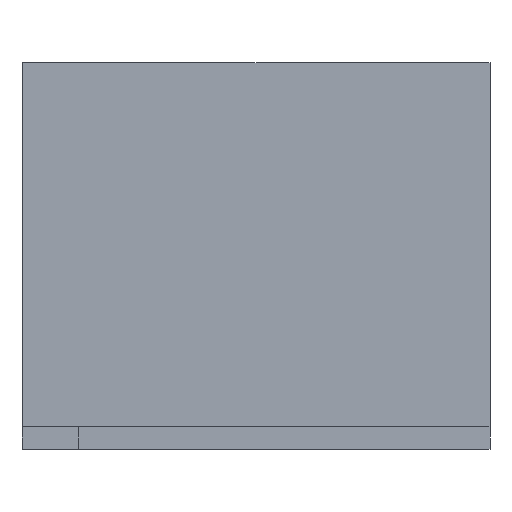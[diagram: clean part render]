
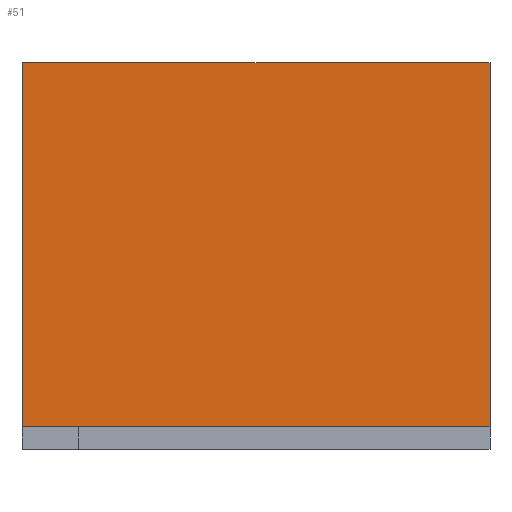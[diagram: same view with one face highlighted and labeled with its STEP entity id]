
A CAD part, front view. The second image highlights one B-rep face of the part: STEP entity #51.
In plain terms, the highlighted planar face has unit normal (0, -1, 0).
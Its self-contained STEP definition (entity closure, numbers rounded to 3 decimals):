
#51 = ADVANCED_FACE('',(#52),#94,.F.);
#52 = FACE_BOUND('',#53,.F.);
#53 = EDGE_LOOP('',(#54,#64,#72,#80,#88));
#54 = ORIENTED_EDGE('',*,*,#55,.T.);
#55 = EDGE_CURVE('',#56,#58,#60,.T.);
#56 = VERTEX_POINT('',#57);
#57 = CARTESIAN_POINT('',(0.,0.,0.));
#58 = VERTEX_POINT('',#59);
#59 = CARTESIAN_POINT('',(0.,0.,21.));
#60 = LINE('',#61,#62);
#61 = CARTESIAN_POINT('',(0.,0.,0.));
#62 = VECTOR('',#63,1.);
#63 = DIRECTION('',(0.,0.,1.));
#64 = ORIENTED_EDGE('',*,*,#65,.T.);
#65 = EDGE_CURVE('',#58,#66,#68,.T.);
#66 = VERTEX_POINT('',#67);
#67 = CARTESIAN_POINT('',(27.,0.,21.));
#68 = LINE('',#69,#70);
#69 = CARTESIAN_POINT('',(0.,0.,21.));
#70 = VECTOR('',#71,1.);
#71 = DIRECTION('',(1.,0.,0.));
#72 = ORIENTED_EDGE('',*,*,#73,.F.);
#73 = EDGE_CURVE('',#74,#66,#76,.T.);
#74 = VERTEX_POINT('',#75);
#75 = CARTESIAN_POINT('',(27.,0.,0.));
#76 = LINE('',#77,#78);
#77 = CARTESIAN_POINT('',(27.,0.,0.));
#78 = VECTOR('',#79,1.);
#79 = DIRECTION('',(0.,0.,1.));
#80 = ORIENTED_EDGE('',*,*,#81,.F.);
#81 = EDGE_CURVE('',#82,#74,#84,.T.);
#82 = VERTEX_POINT('',#83);
#83 = CARTESIAN_POINT('',(3.28,0.,0.));
#84 = LINE('',#85,#86);
#85 = CARTESIAN_POINT('',(0.,0.,0.));
#86 = VECTOR('',#87,1.);
#87 = DIRECTION('',(1.,0.,0.));
#88 = ORIENTED_EDGE('',*,*,#89,.F.);
#89 = EDGE_CURVE('',#56,#82,#90,.T.);
#90 = LINE('',#91,#92);
#91 = CARTESIAN_POINT('',(0.,0.,0.));
#92 = VECTOR('',#93,1.);
#93 = DIRECTION('',(1.,0.,0.));
#94 = PLANE('',#95);
#95 = AXIS2_PLACEMENT_3D('',#96,#97,#98);
#96 = CARTESIAN_POINT('',(0.,0.,0.));
#97 = DIRECTION('',(0.,1.,0.));
#98 = DIRECTION('',(1.,0.,0.));
